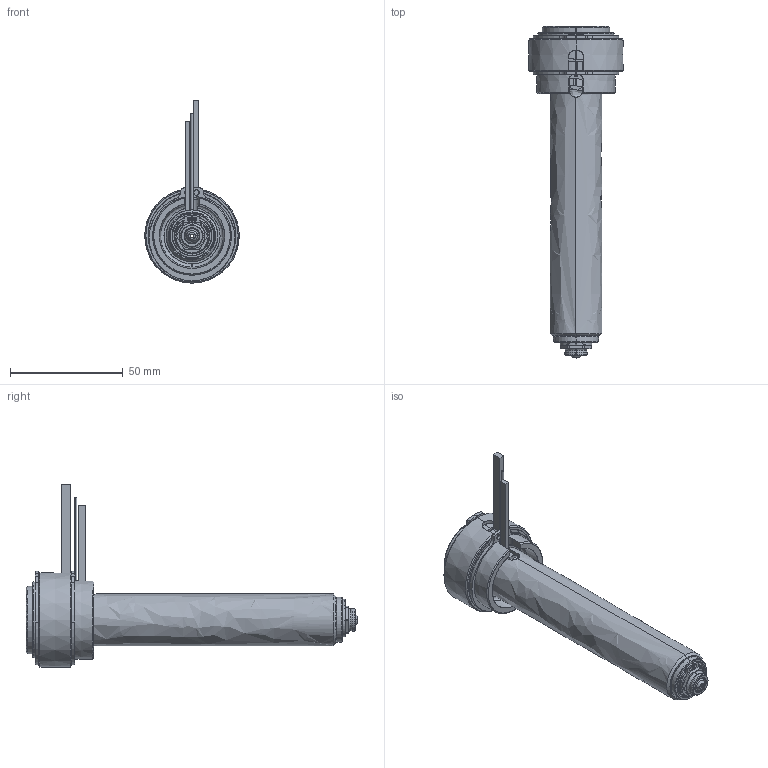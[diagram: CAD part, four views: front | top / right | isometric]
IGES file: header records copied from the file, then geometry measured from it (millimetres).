
Start section: SolidWorks IGES file using analytic representation for surfaces
Global section: file name: C:\Documents and Settings\ws-20\Desktop\TEM\UGER3553-M-A-1 [Øb-1.50  ØC-6.0].IGS; native system: SolidWorks 2012; preprocessor: SolidWorks 2012; author: ws-20; date: 120410.094908; units: millimetre
Bounding box: 42 x 147.4 x 80.9 mm (x, y, z)
Surface area: 36799.7 mm2 (no closed solid volume)
Topology: 0 solids, 0 shells, 198 faces, 3272 edges, 3272 vertices
Faces by surface type: revolution 126, bspline 72
